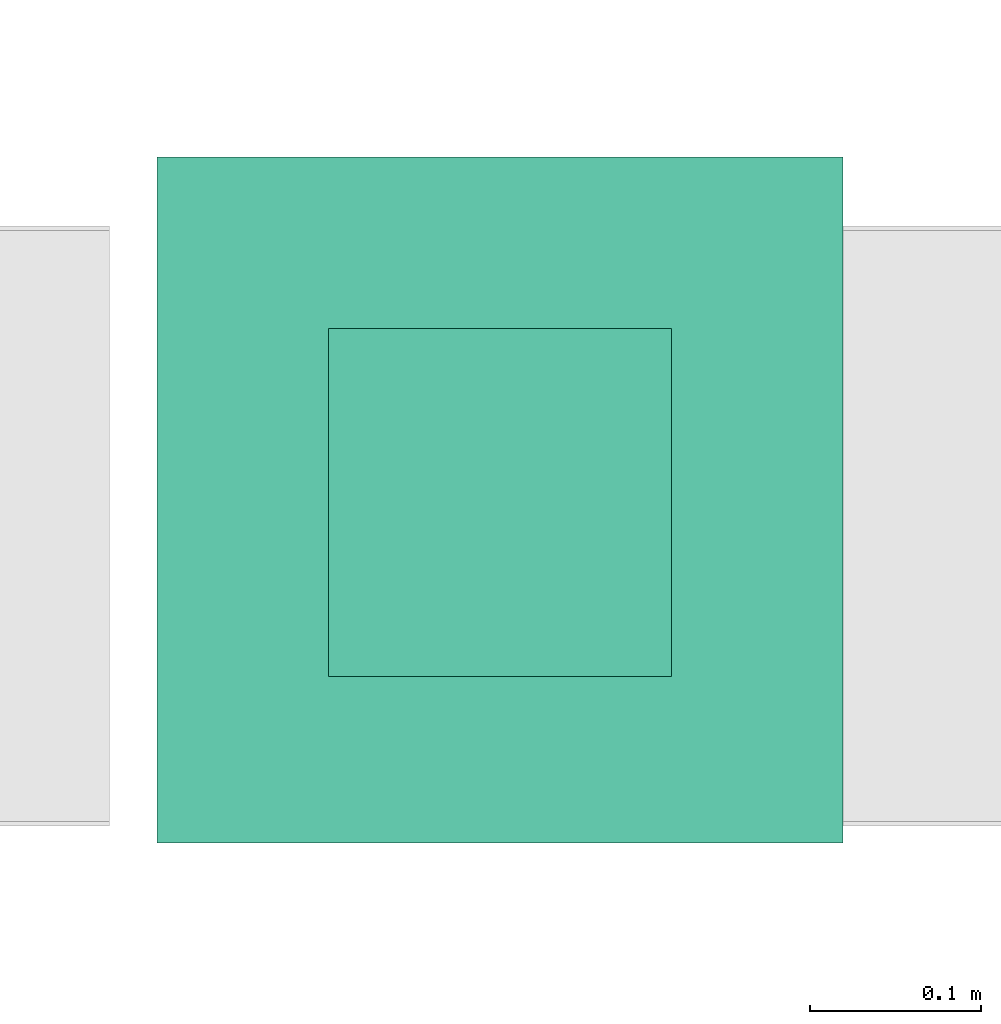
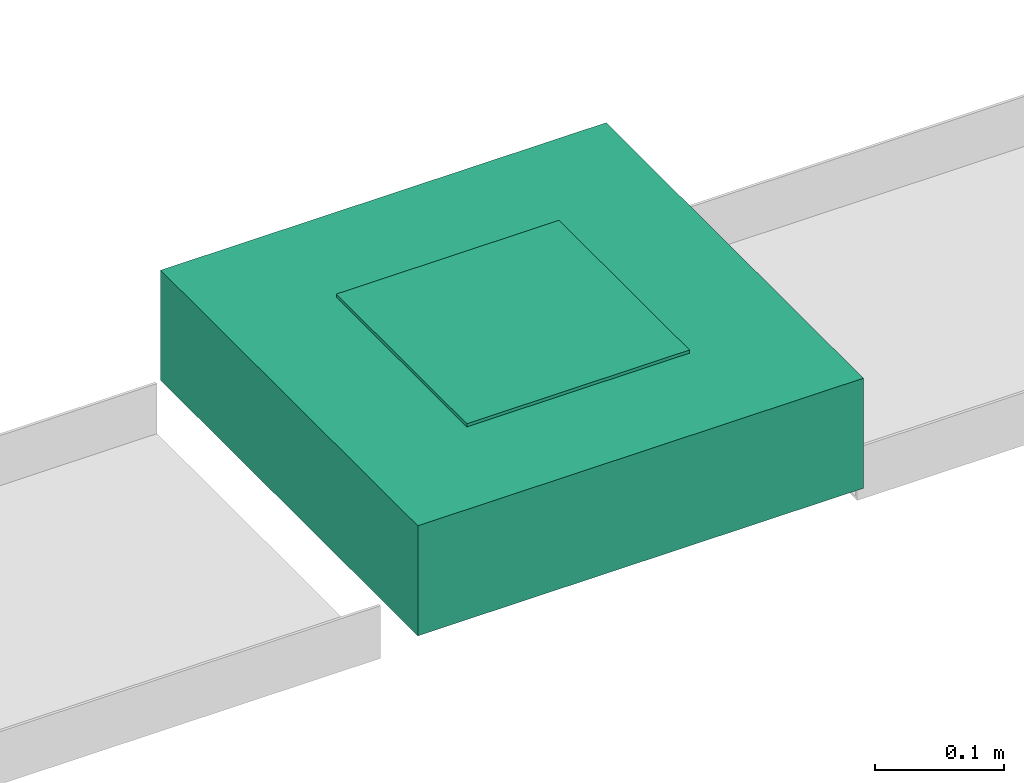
# One storey, part 13 of 24: 1 flow terminal.
"""IFC2X3 building model written with IfcOpenShell, lengths in millimetres."""

import ifcopenshell
import ifcopenshell.guid

model = None  # the IFC model being written
_history = None  # IfcOwnerHistory: only IFC2X3 demands one
_inside = {}  # id of a spatial element -> (the spatial element, [elements in it])
_under = {}  # id of a project, library or spatial element -> (it, [spatial elements below it])
_declared = {}  # id of a project -> (the project, [libraries it declares])
_typed = {}  # id of a type object -> (the type object, [elements of that type])
_made_of = {}  # id of a material, layer set ... -> (it, [elements and type objects made of it])


def new_model(schema):
    """Start an empty IFC model of exactly this schema.

    Asked for "IFC4X3", IfcOpenShell would pick the latest addendum, in which some entities
    have other attributes; the version numbers below select the first issue.
    IFC2X3 requires an IfcOwnerHistory on every rooted entity: one is made here for all.
    """
    global model, _history
    if schema == "IFC4X3":
        model = ifcopenshell.file(schema_version=(4, 3, 0, 0))
    else:
        model = ifcopenshell.file(schema=schema)
    _inside.clear()
    _under.clear()
    _declared.clear()
    _typed.clear()
    _made_of.clear()
    _history = None
    if model.schema == "IFC2X3":
        org = make("IfcOrganization", Name="unknown")
        user = make(
            "IfcPersonAndOrganization",
            ThePerson=make("IfcPerson", FamilyName="unknown"),
            TheOrganization=org,
        )
        app = make(
            "IfcApplication",
            ApplicationDeveloper=org,
            Version="unknown",
            ApplicationFullName="unknown",
            ApplicationIdentifier="unknown",
        )
        _history = make(
            "IfcOwnerHistory",
            OwningUser=user,
            OwningApplication=app,
            ChangeAction="ADDED",
            CreationDate=0,
        )
    return model


def make(cls, **values):
    """One entity of the class cls with the attributes given. An attribute that is None is left unset."""
    return model.create_entity(
        cls, **{name: value for name, value in values.items() if value is not None}
    )


def entity(cls, *values):
    """Any entity or typed value of the class cls, its attributes in the order of the schema. None: left unset."""
    e = model.create_entity(cls)
    for i, value in enumerate(values):
        if value is not None:
            e[i] = value
    return e


def rooted(cls, **values):
    """An entity with a GlobalId (a new one), such as an element, a storey or a relation."""
    return make(cls, GlobalId=ifcopenshell.guid.new(), OwnerHistory=_history, **values)


def si_unit(unit_type, name, prefix=None):
    """IfcSIUnit, for example si_unit("LENGTHUNIT", "METRE", prefix="MILLI")."""
    return make("IfcSIUnit", UnitType=unit_type, Prefix=prefix, Name=name)


def converted_unit(unit_type, name, factor, base, dimensions=None, offset=None):
    """IfcConversionBasedUnit, such as the inch: factor (a typed value) times the base unit."""
    return make(
        "IfcConversionBasedUnit"
        if offset is None
        else "IfcConversionBasedUnitWithOffset",
        ConversionOffset=offset,
        Dimensions=None
        if dimensions is None
        else entity("IfcDimensionalExponents", *dimensions),
        UnitType=unit_type,
        Name=name,
        ConversionFactor=make(
            "IfcMeasureWithUnit", ValueComponent=factor, UnitComponent=base
        ),
    )


def derived_unit(unit_type, elements):
    """IfcDerivedUnit: a product of units, each with its exponent."""
    return make(
        "IfcDerivedUnit",
        Elements=[
            make("IfcDerivedUnitElement", Unit=unit, Exponent=power)
            for unit, power in elements
        ],
        UnitType=unit_type,
    )


def assignment(units):
    """IfcUnitAssignment: the units of a project."""
    return None if units is None else make("IfcUnitAssignment", Units=units)


def point(xyz):
    """IfcCartesianPoint."""
    return None if xyz is None else make("IfcCartesianPoint", Coordinates=xyz)


def direction(xyz):
    """IfcDirection."""
    return None if xyz is None else make("IfcDirection", DirectionRatios=xyz)


def frame(location, z_axis=None, x_axis=None):
    """IfcAxis2Placement3D, a coordinate frame: its origin and axes. An axis left out is left unset."""
    return make(
        "IfcAxis2Placement3D",
        Location=point(location),
        Axis=direction(z_axis),
        RefDirection=direction(x_axis),
    )


def origin_with_axes():
    """The frame at (0, 0, 0) with the z axis (0, 0, 1) and the x axis (1, 0, 0) written out."""
    return frame((0.0, 0.0, 0.0), z_axis=(0.0, 0.0, 1.0), x_axis=(1.0, 0.0, 0.0))


def place(relative_to, where):
    """IfcLocalPlacement: puts the frame where relative to a parent placement (None: the world)."""
    return make(
        "IfcLocalPlacement", PlacementRelTo=relative_to, RelativePlacement=where
    )


def context(
    kind, dimensions, precision=None, world=None, true_north=None, identifier=None
):
    """IfcGeometricRepresentationContext, for example the 3D "Model" context."""
    return make(
        "IfcGeometricRepresentationContext",
        ContextIdentifier=identifier,
        ContextType=kind,
        CoordinateSpaceDimension=dimensions,
        Precision=precision,
        WorldCoordinateSystem=world,
        TrueNorth=true_north,
    )


def subcontext(parent, identifier, kind, view, scale=None):
    """IfcGeometricRepresentationSubContext, for example "Body" below "Model"."""
    return make(
        "IfcGeometricRepresentationSubContext",
        ContextIdentifier=identifier,
        ContextType=kind,
        ParentContext=parent,
        TargetScale=scale,
        TargetView=view,
    )


def project(units=None, contexts=None):
    """IfcProject with its units and contexts."""
    return rooted(
        "IfcProject",
        Name="project",
        RepresentationContexts=contexts,
        UnitsInContext=assignment(units),
    )


def spatial(cls, under=None, at=None, **own):
    """A site, building, storey or space (cls), placed at a placement, below another one or the project."""
    s = rooted(cls, ObjectPlacement=at, **own)
    if under is not None:
        _under.setdefault(under.id(), (under, []))[1].append(s)
    return s


def faces_of(points, faces, orient=None, outer=None):
    """IfcFace entities. A face is a list of loops; a loop is a list of indices into points, from 0.

    orient and outer hold one flag for each loop. By default every Orientation is true, the
    first loop of a face is its IfcFaceOuterBound and the others are IfcFaceBound.
    """
    made = []
    for i, loops in enumerate(faces):
        bounds = []
        for j, loop in enumerate(loops):
            is_outer = j == 0 if outer is None else outer[i][j]
            bounds.append(
                make(
                    "IfcFaceOuterBound" if is_outer else "IfcFaceBound",
                    Bound=make("IfcPolyLoop", Polygon=[points[k] for k in loop]),
                    Orientation=True if orient is None else orient[i][j],
                )
            )
        made.append(make("IfcFace", Bounds=bounds))
    return made


def open_shell(faces, orient=None, outer=None):
    """The faces of one IfcOpenShell. surface_model builds it on its shared points."""
    return ("IfcOpenShell", faces, orient, outer)


def surface_model(cls, points, shells):
    """IfcFaceBasedSurfaceModel or IfcShellBasedSurfaceModel (cls): surfaces that need not close."""
    shared = [point(p) for p in points]
    made = [make(c, CfsFaces=faces_of(shared, fs, o, b)) for c, fs, o, b in shells]
    if cls == "IfcFaceBasedSurfaceModel":
        return make(cls, FbsmFaces=made)
    return make(cls, SbsmBoundary=made)


def shape(context_of_items, identifier, shape_type, items):
    """IfcShapeRepresentation: the items that make up one representation, for example the "Body"."""
    return make(
        "IfcShapeRepresentation",
        ContextOfItems=context_of_items,
        RepresentationIdentifier=identifier,
        RepresentationType=shape_type,
        Items=items,
    )


def source(mapping_origin, context_of_items, identifier, shape_type, items):
    """IfcRepresentationMap: a shape defined once, which mapped items show again and again."""
    return make(
        "IfcRepresentationMap",
        MappingOrigin=mapping_origin,
        MappedRepresentation=shape(context_of_items, identifier, shape_type, items),
    )


def transform(
    local_origin,
    x_axis=None,
    y_axis=None,
    z_axis=None,
    scale=None,
    scale2=None,
    scale3=None,
    uniform=True,
):
    """IfcCartesianTransformationOperator3D, or its non-uniform kind. x_axis, y_axis, z_axis: its Axis1, 2, 3."""
    if uniform:
        return make(
            "IfcCartesianTransformationOperator3D",
            Axis1=direction(x_axis),
            Axis2=direction(y_axis),
            LocalOrigin=point(local_origin),
            Scale=scale,
            Axis3=direction(z_axis),
        )
    return make(
        "IfcCartesianTransformationOperator3DnonUniform",
        Axis1=direction(x_axis),
        Axis2=direction(y_axis),
        LocalOrigin=point(local_origin),
        Scale=scale,
        Axis3=direction(z_axis),
        Scale2=scale2,
        Scale3=scale3,
    )


def mapped(mapping_source, mapping_target):
    """IfcMappedItem: shows the shape of a source again, moved by a transform."""
    return make(
        "IfcMappedItem", MappingSource=mapping_source, MappingTarget=mapping_target
    )


def made_of(thing, what):
    """Note that an element or type object is made of a material, layer set ...; save() writes the relation."""
    if what is not None:
        _made_of.setdefault(what.id(), (what, []))[1].append(thing)
    return thing


def type_object(cls, material=None, **own):
    """A type object (cls), such as IfcWallType, which elements share."""
    return made_of(rooted(cls, **own), material)


def element(
    cls,
    number,
    at=None,
    inside=None,
    cuts=None,
    type_object=None,
    material=None,
    context=None,
    identifier="Body",
    shape_type=None,
    held_by="IfcProductDefinitionShape",
    body=None,
    shapes=None,
    **own,
):
    """One element of the class cls, such as IfcWall. Its Tag is "e" and its number.

    at: its placement. inside: the storey or other place that contains it. cuts: it is an
    opening in that element (IfcRelVoidsElement). A single representation is given by context,
    identifier, shape_type and body (its items); several are given by shapes. held_by: the class
    of the entity that holds the representations. save() writes the other relations.
    """
    e = rooted(cls, Tag="e%d" % number, ObjectPlacement=at, **own)
    if body is not None:
        shapes = [shape(context, identifier, shape_type, body)]
    if shapes is not None:
        e.Representation = make(held_by, Representations=shapes)
    if inside is not None:
        _inside.setdefault(inside.id(), (inside, []))[1].append(e)
    if cuts is not None:
        rooted(
            "IfcRelVoidsElement", RelatingBuildingElement=cuts, RelatedOpeningElement=e
        )
    if type_object is not None:
        _typed.setdefault(type_object.id(), (type_object, []))[1].append(e)
    return made_of(e, material)


def aggregate(whole, parts):
    """IfcRelAggregates: a whole, such as a stair, and the parts it consists of."""
    return rooted("IfcRelAggregates", RelatingObject=whole, RelatedObjects=parts)


def save(model, path):
    """Write the relations noted so far, then the file.

    IfcRelAggregates (storeys below a building ...), IfcRelContainedInSpatialStructure (elements
    in a storey), IfcRelDefinesByType, IfcRelAssociatesMaterial and IfcRelDeclares: one each for
    every whole, place, type object, material and project.
    """
    for whole, parts in _under.values():
        aggregate(whole, parts)
    for where, things in _inside.values():
        rooted(
            "IfcRelContainedInSpatialStructure",
            RelatedElements=things,
            RelatingStructure=where,
        )
    for kind, things in _typed.values():
        rooted("IfcRelDefinesByType", RelatedObjects=things, RelatingType=kind)
    for what, things in _made_of.values():
        rooted("IfcRelAssociatesMaterial", RelatedObjects=things, RelatingMaterial=what)
    for by, libraries in _declared.values():
        rooted("IfcRelDeclares", RelatingContext=by, RelatedDefinitions=libraries)
    model.write(path)


model = new_model("IFC2X3")

# Units and contexts
model_context = context("Model", 3, precision=0.01, world=frame((0.0, 4.29681676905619e-09, 0.0)), true_north=direction((4.01073788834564e-13, 1.0)))
plan_context = context("Plan", 3, precision=0.01, world=frame((0.0, 4.29681676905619e-09, 0.0)), true_north=direction((4.01073788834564e-13, 1.0)))
body_context = subcontext(model_context, "Body", "Model", "MODEL_VIEW")
ifc_project = project(units=[converted_unit("PLANEANGLEUNIT", "DEGREE", entity("IfcPositiveLengthMeasure", 0.0174532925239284), si_unit("PLANEANGLEUNIT", "RADIAN"), dimensions=[0, 0, 0, 0, 0, 0, 0]), si_unit("AREAUNIT", "SQUARE_METRE"), si_unit("LENGTHUNIT", "METRE", prefix="MILLI"), si_unit("MASSUNIT", "GRAM", prefix="KILO"), si_unit("POWERUNIT", "WATT"), si_unit("PRESSUREUNIT", "PASCAL"), si_unit("FORCEUNIT", "NEWTON", prefix="KILO"), si_unit("ELECTRICVOLTAGEUNIT", "VOLT"), si_unit("ELECTRICCURRENTUNIT", "AMPERE"), si_unit("THERMODYNAMICTEMPERATUREUNIT", "DEGREE_CELSIUS"), si_unit("TIMEUNIT", "SECOND"), si_unit("VOLUMEUNIT", "CUBIC_METRE"), derived_unit("LINEARVELOCITYUNIT", [(si_unit("LENGTHUNIT", "METRE"), 1), (si_unit("TIMEUNIT", "SECOND"), -1)]), derived_unit("VOLUMETRICFLOWRATEUNIT", [(si_unit("VOLUMEUNIT", "CUBIC_METRE"), 1), (si_unit("TIMEUNIT", "SECOND"), -1)]), derived_unit("THERMALTRANSMITTANCEUNIT", [(si_unit("POWERUNIT", "WATT"), 1), (si_unit("THERMODYNAMICTEMPERATUREUNIT", "KELVIN"), -1), (si_unit("AREAUNIT", "SQUARE_METRE"), -1)]), derived_unit("SOUNDPRESSUREUNIT", [(si_unit("PRESSUREUNIT", "PASCAL"), 1)])], contexts=[model_context, plan_context])

# Site, building, storey
site_placement = place(None, frame((0.0, -4.29681676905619e-09, 0.0), z_axis=(0.0, 0.0, 1.0), x_axis=(1.0, 0.0, 0.0)))
site = spatial("IfcSite", under=ifc_project, at=site_placement, Name="ENGM", CompositionType="ELEMENT")
building_placement = place(site_placement, frame((0.0, 4.29681676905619e-09, 0.0), z_axis=(0.0, 0.0, 1.0), x_axis=(1.0, 0.0, 0.0)))
building = spatial("IfcBuilding", under=site, at=building_placement, Name="TH", CompositionType="ELEMENT")
storey_placement = place(building_placement, frame((0.0, 0.0, 210200.0), z_axis=(0.0, 0.0, 1.0), x_axis=(1.0, 0.0, 0.0)))
storey = spatial("IfcBuildingStorey", under=building, at=storey_placement, Name="Nivå F - 0,7 m", CompositionType="ELEMENT", Elevation=210200.0)

# Flow terminal
electric_appliance_type = type_object("IfcElectricApplianceType", Name="OTHER-EE-POWER-BALANCED-DUMMY", PredefinedType="NOTDEFINED")
shared_shape = source(origin_with_axes(), body_context, "Body", "SurfaceModel", [
    surface_model("IfcShellBasedSurfaceModel", [(199.96, -199.96, -8.96812), (199.96, 200.0, -8.96812), (-200.0, 200.0, -8.96812), (-200.0, -199.96, -8.96812), (-200.0, -199.96, -108.96812), (-200.0, 200.0, -108.96812), (199.96, -199.96, -108.96812), (199.96, 200.0, -108.96812), (99.91278, -102.96181, -1.48406), (99.91278, 100.0, -1.48406), (-100.0, -102.96181, -1.48406), (-100.0, 100.0, -1.48406), (-100.0, -102.96181, -4.48406), (-100.0, 100.0, -4.48406), (99.91278, 100.0, -4.48406), (99.91278, -102.96181, -4.48406), (199.96, -199.96, -4.48406), (199.96, 200.0, -4.48406), (-200.0, 200.0, -4.48406), (-200.0, -199.96, -4.48406), (-200.0, -199.96, -104.48406), (-200.0, 200.0, -104.48406), (199.96, -199.96, -104.48406), (199.96, 200.0, -104.48406)], [open_shell([[[0, 1, 2]], [[2, 3, 0]], [[4, 5, 6]], [[7, 6, 5]], [[2, 1, 7]], [[7, 5, 2]], [[3, 2, 5]], [[5, 4, 3]], [[0, 3, 4]], [[4, 6, 0]], [[1, 0, 6]], [[6, 7, 1]], [[8, 9, 10]], [[11, 10, 9]], [[12, 13, 14]], [[14, 15, 12]], [[11, 9, 14]], [[14, 13, 11]], [[10, 11, 13]], [[13, 12, 10]], [[8, 10, 12]], [[12, 15, 8]], [[9, 8, 15]], [[15, 14, 9]], [[16, 17, 18]], [[18, 19, 16]], [[20, 21, 22]], [[23, 22, 21]], [[18, 17, 23]], [[23, 21, 18]], [[19, 18, 21]], [[21, 20, 19]], [[16, 19, 20]], [[20, 22, 16]], [[17, 16, 22]], [[22, 23, 17]]])]),
])
flow_terminal_placement = place(storey_placement, frame((905507.89, 482161.819, 1.5), z_axis=(0.0, 0.0, 1.0), x_axis=(1.0, 0.0, 0.0)))
element("IfcFlowTerminal", 1, at=flow_terminal_placement, inside=storey, type_object=electric_appliance_type, Name="OTHER-EE-POWER-BALANCED-DUMMY", context=body_context, shape_type="MappedRepresentation", body=[
    mapped(shared_shape, transform((0.0, 0.0, 0.0), scale=1.0)),
])

save(model, "model.ifc")
